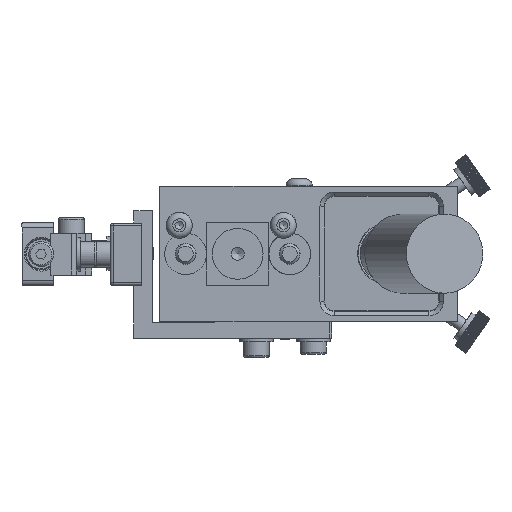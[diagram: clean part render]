
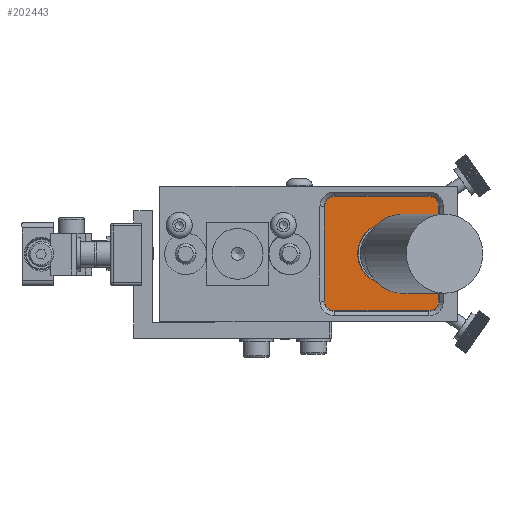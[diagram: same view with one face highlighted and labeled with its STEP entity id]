
A CAD part, left-side view. The second image highlights one B-rep face of the part: STEP entity #202443.
In plain terms, the highlighted planar face has unit normal (-1, 0, 0).
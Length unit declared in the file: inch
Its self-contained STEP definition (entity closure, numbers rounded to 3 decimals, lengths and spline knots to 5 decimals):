
#201765=CARTESIAN_POINT('',(-1.18463,-1.39566,-0.81));
#201766=VERTEX_POINT('',#201765);
#201767=CARTESIAN_POINT('',(-1.18463,-1.78389,-0.81));
#201768=DIRECTION('',(1.0,0.0,0.0));
#201769=DIRECTION('',(0.0,-1.0,0.0));
#201770=AXIS2_PLACEMENT_3D('',#201767,#201768,#201769);
#201771=ELLIPSE('',#201770,0.38823,0.375);
#201772=EDGE_CURVE('',#201766,#201766,#201771,.T.);
#202234=CARTESIAN_POINT('',(-1.18463,-0.9919,-1.372));
#202235=VERTEX_POINT('',#202234);
#202236=CARTESIAN_POINT('',(-1.18463,-0.9919,-0.248));
#202237=VERTEX_POINT('',#202236);
#202238=CARTESIAN_POINT('',(-1.18463,-0.9919,-1.372));
#202239=DIRECTION('',(0.0,0.0,1.0));
#202240=VECTOR('',#202239,1.124);
#202241=LINE('',#202238,#202240);
#202242=EDGE_CURVE('',#202235,#202237,#202241,.T.);
#202265=CARTESIAN_POINT('',(-1.18463,-1.1169,-0.123));
#202266=VERTEX_POINT('',#202265);
#202267=CARTESIAN_POINT('',(-1.18463,-1.1169,-0.248));
#202268=DIRECTION('',(1.0,0.0,0.0));
#202269=DIRECTION('',(0.0,0.0,-1.0));
#202270=AXIS2_PLACEMENT_3D('',#202267,#202268,#202269);
#202271=CIRCLE('',#202270,0.125);
#202272=EDGE_CURVE('',#202237,#202266,#202271,.T.);
#202290=CARTESIAN_POINT('',(-1.18463,-2.2409,-0.123));
#202291=VERTEX_POINT('',#202290);
#202292=CARTESIAN_POINT('',(-1.18463,-1.1169,-0.123));
#202293=DIRECTION('',(0.0,-1.0,0.0));
#202294=VECTOR('',#202293,1.124);
#202295=LINE('',#202292,#202294);
#202296=EDGE_CURVE('',#202266,#202291,#202295,.T.);
#202314=CARTESIAN_POINT('',(-1.18463,-2.3659,-0.248));
#202315=VERTEX_POINT('',#202314);
#202316=CARTESIAN_POINT('',(-1.18463,-2.2409,-0.248));
#202317=DIRECTION('',(1.0,0.0,0.0));
#202318=DIRECTION('',(0.0,1.0,0.0));
#202319=AXIS2_PLACEMENT_3D('',#202316,#202317,#202318);
#202320=CIRCLE('',#202319,0.125);
#202321=EDGE_CURVE('',#202291,#202315,#202320,.T.);
#202339=CARTESIAN_POINT('',(-1.18463,-2.3659,-1.372));
#202340=VERTEX_POINT('',#202339);
#202341=CARTESIAN_POINT('',(-1.18463,-2.3659,-0.248));
#202342=DIRECTION('',(0.0,0.0,-1.0));
#202343=VECTOR('',#202342,1.124);
#202344=LINE('',#202341,#202343);
#202345=EDGE_CURVE('',#202315,#202340,#202344,.T.);
#202363=CARTESIAN_POINT('',(-1.18463,-2.2409,-1.497));
#202364=VERTEX_POINT('',#202363);
#202365=CARTESIAN_POINT('',(-1.18463,-2.2409,-1.372));
#202366=DIRECTION('',(1.0,0.0,0.0));
#202367=DIRECTION('',(0.0,0.0,1.0));
#202368=AXIS2_PLACEMENT_3D('',#202365,#202366,#202367);
#202369=CIRCLE('',#202368,0.125);
#202370=EDGE_CURVE('',#202340,#202364,#202369,.T.);
#202388=CARTESIAN_POINT('',(-1.18463,-1.1169,-1.497));
#202389=VERTEX_POINT('',#202388);
#202390=CARTESIAN_POINT('',(-1.18463,-2.2409,-1.497));
#202391=DIRECTION('',(0.0,1.0,0.0));
#202392=VECTOR('',#202391,1.124);
#202393=LINE('',#202390,#202392);
#202394=EDGE_CURVE('',#202364,#202389,#202393,.T.);
#202412=CARTESIAN_POINT('',(-1.18463,-1.1169,-1.372));
#202413=DIRECTION('',(1.0,0.0,0.0));
#202414=DIRECTION('',(0.0,-1.0,0.0));
#202415=AXIS2_PLACEMENT_3D('',#202412,#202413,#202414);
#202416=CIRCLE('',#202415,0.125);
#202417=EDGE_CURVE('',#202389,#202235,#202416,.T.);
#202425=CARTESIAN_POINT('',(-1.18463,-1.6789,-0.81));
#202426=DIRECTION('',(-1.0,0.0,0.0));
#202427=DIRECTION('',(0.0,0.0,1.0));
#202428=AXIS2_PLACEMENT_3D('',#202425,#202426,#202427);
#202429=PLANE('',#202428);
#202430=ORIENTED_EDGE('',*,*,#202242,.F.);
#202431=ORIENTED_EDGE('',*,*,#202417,.F.);
#202432=ORIENTED_EDGE('',*,*,#202394,.F.);
#202433=ORIENTED_EDGE('',*,*,#202370,.F.);
#202434=ORIENTED_EDGE('',*,*,#202345,.F.);
#202435=ORIENTED_EDGE('',*,*,#202321,.F.);
#202436=ORIENTED_EDGE('',*,*,#202296,.F.);
#202437=ORIENTED_EDGE('',*,*,#202272,.F.);
#202438=EDGE_LOOP('',(#202430,#202431,#202432,#202433,#202434,#202435,#202436,#202437));
#202439=FACE_OUTER_BOUND('',#202438,.T.);
#202440=ORIENTED_EDGE('',*,*,#201772,.T.);
#202441=EDGE_LOOP('',(#202440));
#202442=FACE_BOUND('',#202441,.T.);
#202443=ADVANCED_FACE('',(#202439,#202442),#202429,.T.);
